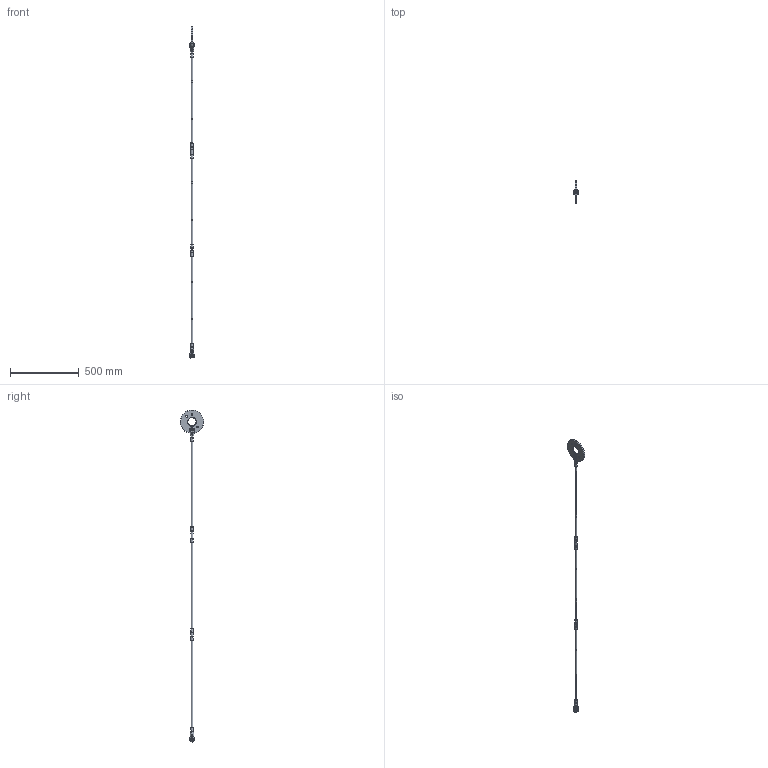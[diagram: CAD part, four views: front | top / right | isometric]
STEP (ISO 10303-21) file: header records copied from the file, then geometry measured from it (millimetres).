
FILE_DESCRIPTION(/* description */ (''),/* implementation_level */ '2;1');
FILE_NAME(/* name */ 'C:\Vault-WS\Anker\Werksnorm\Hochbau\ASDO-System\ASDO-S\System Komplett\Step\M 012.stp',/* time_stamp */ '2014-01-29T09:44:07+01:00',/* author */ ('ritgen'),/* organization */ (''),/* preprocessor_version */ 'ST-DEVELOPER v15.2',/* originating_system */ 'Autodesk Inventor 2014',/* authorisation */ '');
FILE_SCHEMA (('AUTOMOTIVE_DESIGN { 1 0 10303 214 3 1 1 }'));
Length unit declared in the file: millimetre
Products named in the file (10): ASDO-005749; ASDO-000253; DIN 471 - 12x1 - C67; ASDO-013925; ASDO-001594; ASDO-001317; ASDO-001442; ASDO-006274; ASDO-013966; ASDO-006276
Bounding box: 34.55 x 169.84 x 2406.79 mm (x, y, z)
Volume: 524806.9 mm3; surface area: 179143.8 mm2
Topology: 18 solids, 18 shells, 421 faces, 912 edges, 563 vertices
Faces by surface type: bspline 144, plane 138, cylinder 79, torus 38, cone 22
Full cylindrical faces by diameter (mm): 1.7 x4, 3.5 x18, 10.106 x10, 11.2 x2, 12 x7, 13 x14, 15 x2, 17 x6, 20 x2, 60 x1, 170 x1
Entity records: 14367 total; most frequent: CARTESIAN_POINT 10386, ORIENTED_EDGE 738, DIRECTION 704, EDGE_CURVE 369, AXIS2_PLACEMENT_3D 320, EDGE_LOOP 286, VERTEX_POINT 253, ADVANCED_FACE 196
